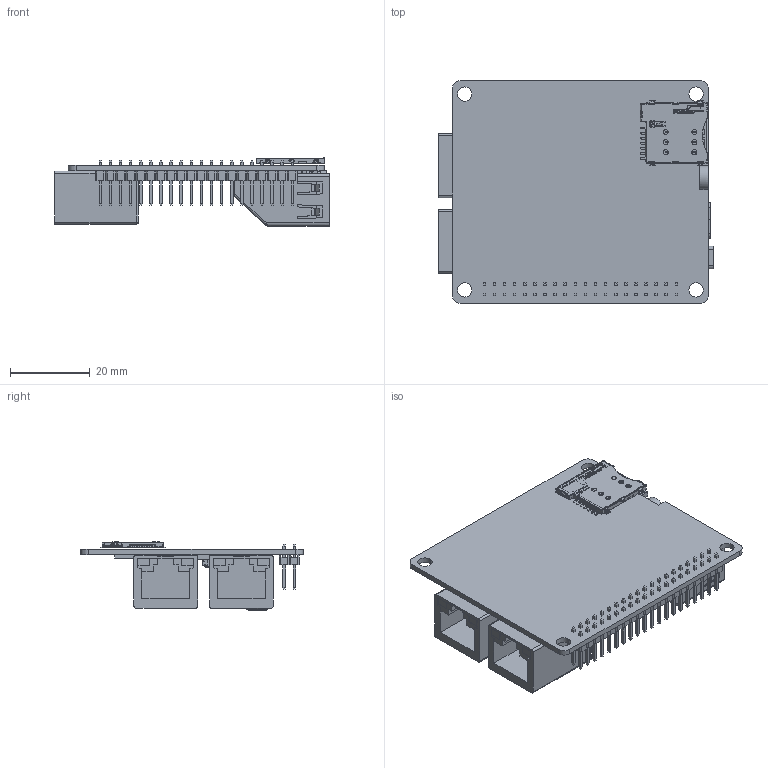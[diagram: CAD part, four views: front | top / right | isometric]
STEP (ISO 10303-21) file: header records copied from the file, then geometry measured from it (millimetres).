
FILE_DESCRIPTION((''),'2;1');
FILE_NAME('PI-E_2__ASM','2023-11-17T17:49:00',('admin'),(''),'CREO PARAMETRIC BY PTC INC, 2023072','CREO PARAMETRIC BY PTC INC, 2023072','');
FILE_SCHEMA(('CONFIG_CONTROL_DESIGN','SHAPE_APPEARANCE_LAYERS_GROUPS'));
Products named in the file (12): PCB_14; IMPORTED1-308012_2_3; IMPORTED24_2_2; 000_4; ERJIKONG_7; USB-BIG_5; PIE_TOP; ASM0001_ASM_31_ASM; 000_ASM_53_ASM; SI62C-01200_1_2_1_5_1; USB-16PIN-TYPEC_FIN_1_252_2; PI-E_2__ASM
Assembly tree (51 placements, depth 4):
  PI-E_2__ASM
    000_ASM_53_ASM
      ASM0001_ASM_31_ASM
        PCB_14
        IMPORTED1-308012_2_3
        IMPORTED24_2_2  x40
        000_4  x2
        ERJIKONG_7
        USB-BIG_5
        PIE_TOP
    SI62C-01200_1_2_1_5_1
    USB-16PIN-TYPEC_FIN_1_252_2
Bounding box: 69 x 56 x 17.15 mm (x, y, z)
Volume: 13470 mm3; surface area: 19348.5 mm2
Topology: 51 solids, 58 shells, 3414 faces, 19537 edges, 20837 vertices
Faces by surface type: plane 2627, cylinder 638, bspline 111, torus 14, sphere 8, cone 8, extrusion 8
Entity records: 200401 total; most frequent: CARTESIAN_POINT 37361, DIRECTION 30802, ORIENTED_EDGE 15300, PRESENTATION_STYLE_ASSIGNMENT 12808, STYLED_ITEM 12411, CURVE_STYLE 12276, TRIMMED_CURVE 10675, VECTOR 10462
